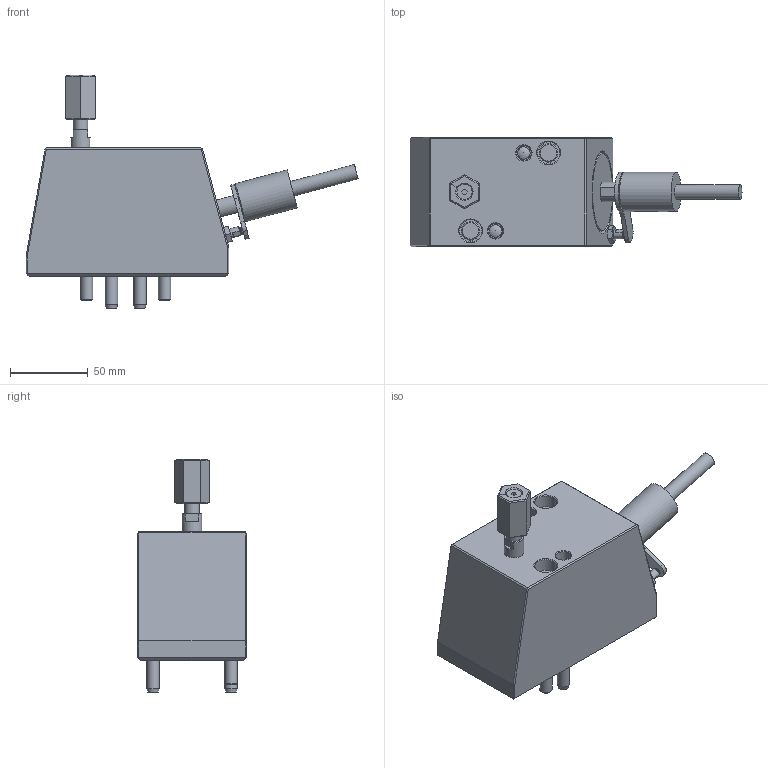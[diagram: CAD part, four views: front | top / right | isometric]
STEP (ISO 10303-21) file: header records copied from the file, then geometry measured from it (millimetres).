
FILE_DESCRIPTION(('STEP AP214'),'1');
FILE_NAME('0011_EZ-15-S-L_201209.stp','2020-12-14T12:23:18',(' '),(' '),'Spatial InterOp 3D',' ',' ');
FILE_SCHEMA(('AUTOMOTIVE_DESIGN { 1 0 10303 214 1 1 1 1 }'));
Length unit declared in the file: metre
Products named in the file (18): 1583513482; 1582908874; 1582908804; 1583758620; 1607689771; 1580688640; 1580688599; 1580688335; 1580700033; 1580691960; 1580702734; 1580689014; 1580689030; 1580689046; 1580689062; 1580689236; 1580689244; 1
Bounding box: 212.9 x 69.85 x 149.84 mm (x, y, z)
Volume: 699471 mm3; surface area: 109364.8 mm2
Topology: 17 solids, 17 shells, 277 faces, 615 edges, 393 vertices
Faces by surface type: plane 152, cylinder 63, cone 49, torus 6, bspline 4, sphere 3
Full cylindrical faces by diameter (mm): 2.8 x1, 3.797 x1, 4.089 x1, 4.8 x1, 4.826 x3, 4.917 x1, 5 x1, 5.159 x1, 6 x1, 6.35 x1, 7.938 x9, 8.433 x1, 8.5 x2, 8.731 x1, 9.5 x1, 9.525 x3, 11.906 x2, 12.7 x3, 14.25 x2, 15.875 x1, 25.146 x1, 26.746 x2, 26.924 x3, 50.292 x1, 50.8 x1
Entity records: 20313 total; most frequent: CARTESIAN_POINT 11805, DIRECTION 1218, ORIENTED_EDGE 980, EDGE_CURVE 490, AXIS2_PLACEMENT_3D 481, EDGE_LOOP 404, VERTEX_POINT 358, STYLED_ITEM 357
